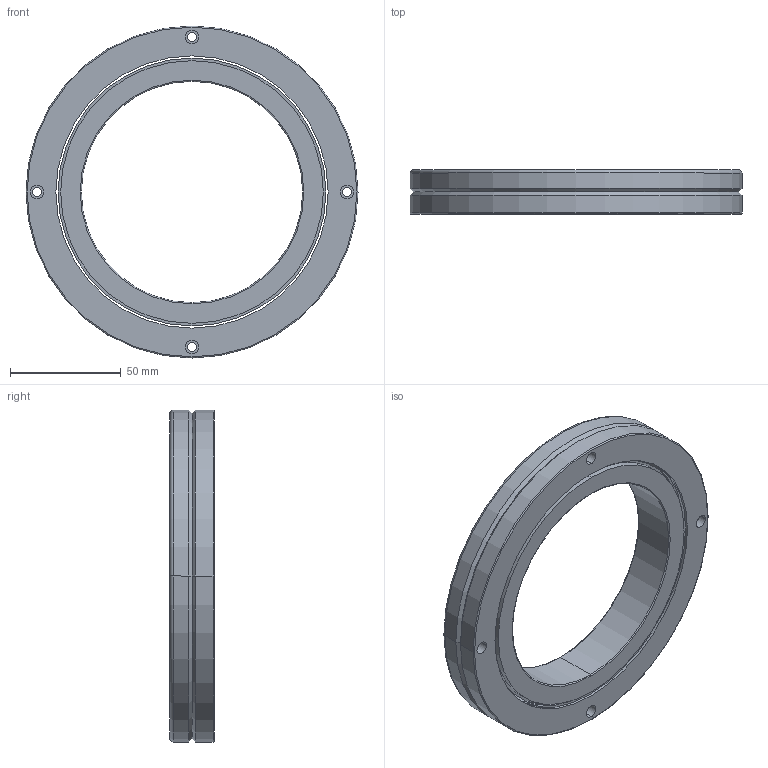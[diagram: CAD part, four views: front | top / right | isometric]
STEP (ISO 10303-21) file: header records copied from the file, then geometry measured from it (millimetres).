
FILE_DESCRIPTION((''),'2;1');
FILE_NAME('RB10020','2015-01-09T',('Administrator'),(''),'PRO/ENGINEER BY PARAMETRIC TECHNOLOGY CORPORATION, 2010180','PRO/ENGINEER BY PARAMETRIC TECHNOLOGY CORPORATION, 2010180','');
FILE_SCHEMA(('AUTOMOTIVE_DESIGN_CC2 { 1 2 10303 214 -1 1 5 2 }'));
Length unit declared in the file: millimetre
Products named in the file (1): RB10020
Bounding box: 150 x 20 x 150 mm (x, y, z)
Volume: 159743.5 mm3; surface area: 58428.9 mm2
Topology: 2 solids, 2 shells, 88 faces, 184 edges, 114 vertices
Faces by surface type: cylinder 50, plane 18, cone 12, torus 8
Entity records: 2497 total; most frequent: DIRECTION 482, CARTESIAN_POINT 386, ORIENTED_EDGE 368, AXIS2_PLACEMENT_3D 210, EDGE_CURVE 184, CIRCLE 122, VERTEX_POINT 114, EDGE_LOOP 114
